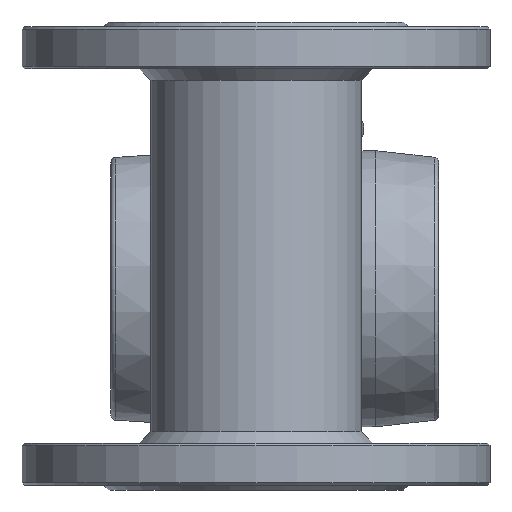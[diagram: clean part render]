
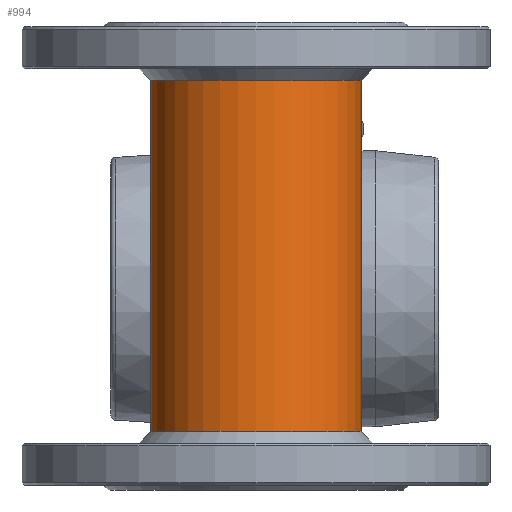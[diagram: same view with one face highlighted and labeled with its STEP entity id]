
A CAD part, front view. The second image highlights one B-rep face of the part: STEP entity #994.
In plain terms, the highlighted cylindrical face has radius 45 mm (diameter 90 mm), a full revolution.
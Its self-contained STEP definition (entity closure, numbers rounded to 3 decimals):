
#242=CYLINDRICAL_SURFACE('',#3549,45.);
#306=B_SPLINE_CURVE_WITH_KNOTS('',3,(#6154,#6155,#6156,#6157,#6158,#6159,
#6160,#6161,#6162,#6163),.UNSPECIFIED.,.F.,.F.,(4,2,2,2,4),(0.,0.25,0.5,
0.75,1.),.UNSPECIFIED.);
#307=B_SPLINE_CURVE_WITH_KNOTS('',3,(#6166,#6167,#6168,#6169,#6170,#6171,
#6172,#6173,#6174,#6175,#6176,#6177,#6178,#6179),.UNSPECIFIED.,.F.,.F.,
(4,2,2,2,2,2,4),(0.,0.25,0.375,0.5,
0.625,0.75,1.),.UNSPECIFIED.);
#490=FACE_BOUND('',#1410,.T.);
#491=FACE_BOUND('',#1411,.T.);
#492=FACE_BOUND('',#1412,.T.);
#493=FACE_BOUND('',#1413,.T.);
#756=CIRCLE('',#3545,45.);
#757=CIRCLE('',#3546,45.);
#758=CIRCLE('',#3547,45.);
#759=CIRCLE('',#3548,45.);
#994=ADVANCED_FACE('',(#490,#491,#492,#493),#242,.T.);
#1410=EDGE_LOOP('',(#1922));
#1411=EDGE_LOOP('',(#1923));
#1412=EDGE_LOOP('',(#1924,#1925));
#1413=EDGE_LOOP('',(#1926,#1927,#1928,#1929));
#1922=ORIENTED_EDGE('',*,*,#3013,.T.);
#1923=ORIENTED_EDGE('',*,*,#3014,.T.);
#1924=ORIENTED_EDGE('',*,*,#3015,.F.);
#1925=ORIENTED_EDGE('',*,*,#3016,.F.);
#1926=ORIENTED_EDGE('',*,*,#3017,.T.);
#1927=ORIENTED_EDGE('',*,*,#3018,.T.);
#1928=ORIENTED_EDGE('',*,*,#3019,.T.);
#1929=ORIENTED_EDGE('',*,*,#3020,.T.);
#2651=VERTEX_POINT('',#6151);
#2652=VERTEX_POINT('',#6153);
#2653=VERTEX_POINT('',#6164);
#2654=VERTEX_POINT('',#6165);
#2655=VERTEX_POINT('',#6181);
#2656=VERTEX_POINT('',#6182);
#2657=VERTEX_POINT('',#6184);
#2658=VERTEX_POINT('',#6186);
#3013=EDGE_CURVE('',#2651,#2651,#756,.T.);
#3014=EDGE_CURVE('',#2652,#2652,#757,.T.);
#3015=EDGE_CURVE('',#2653,#2654,#306,.T.);
#3016=EDGE_CURVE('',#2654,#2653,#307,.T.);
#3017=EDGE_CURVE('',#2655,#2656,#3376,.T.);
#3018=EDGE_CURVE('',#2656,#2657,#758,.T.);
#3019=EDGE_CURVE('',#2657,#2658,#3377,.T.);
#3020=EDGE_CURVE('',#2658,#2655,#759,.T.);
#3376=LINE('',#6180,#3429);
#3377=LINE('',#6185,#3430);
#3429=VECTOR('',#4139,1.);
#3430=VECTOR('',#4142,1.);
#3545=AXIS2_PLACEMENT_3D('',#6150,#4135,#4136);
#3546=AXIS2_PLACEMENT_3D('',#6152,#4137,#4138);
#3547=AXIS2_PLACEMENT_3D('',#6183,#4140,#4141);
#3548=AXIS2_PLACEMENT_3D('',#6187,#4143,#4144);
#3549=AXIS2_PLACEMENT_3D('',#6188,#4145,#4146);
#4135=DIRECTION('',(0.,0.,1.));
#4136=DIRECTION('',(-1.,0.,0.));
#4137=DIRECTION('',(0.,0.,-1.));
#4138=DIRECTION('',(1.,0.,0.));
#4139=DIRECTION('',(0.,0.,1.));
#4140=DIRECTION('',(0.,0.,1.));
#4141=DIRECTION('',(-1.,0.,0.));
#4142=DIRECTION('',(0.,0.,-1.));
#4143=DIRECTION('',(0.,0.,-1.));
#4144=DIRECTION('',(1.,0.,0.));
#4145=DIRECTION('',(0.,0.,-1.));
#4146=DIRECTION('',(1.,0.,0.));
#6150=CARTESIAN_POINT('',(0.,-18.,15.));
#6151=CARTESIAN_POINT('',(-45.,-18.,15.));
#6152=CARTESIAN_POINT('',(0.,-18.,165.));
#6153=CARTESIAN_POINT('',(45.,-18.,165.));
#6154=CARTESIAN_POINT('',(35.228,10.,139.944));
#6155=CARTESIAN_POINT('',(36.113,8.887,139.811));
#6156=CARTESIAN_POINT('',(36.929,7.741,139.417));
#6157=CARTESIAN_POINT('',(38.204,5.807,137.772));
#6158=CARTESIAN_POINT('',(38.643,5.06,136.437));
#6159=CARTESIAN_POINT('',(38.647,5.053,133.585));
#6160=CARTESIAN_POINT('',(38.209,5.799,132.238));
#6161=CARTESIAN_POINT('',(36.934,7.733,130.586));
#6162=CARTESIAN_POINT('',(36.115,8.884,130.189));
#6163=CARTESIAN_POINT('',(35.228,10.,130.056));
#6164=CARTESIAN_POINT('',(35.228,10.,139.944));
#6165=CARTESIAN_POINT('',(35.228,10.,130.056));
#6166=CARTESIAN_POINT('',(35.228,10.,130.056));
#6167=CARTESIAN_POINT('',(34.106,11.412,129.887));
#6168=CARTESIAN_POINT('',(32.869,12.778,130.068));
#6169=CARTESIAN_POINT('',(31.135,14.501,131.222));
#6170=CARTESIAN_POINT('',(30.583,15.015,131.764));
#6171=CARTESIAN_POINT('',(29.747,15.77,133.194));
#6172=CARTESIAN_POINT('',(29.486,15.994,134.07));
#6173=CARTESIAN_POINT('',(29.48,15.999,135.895));
#6174=CARTESIAN_POINT('',(29.737,15.779,136.781));
#6175=CARTESIAN_POINT('',(30.57,15.027,138.222));
#6176=CARTESIAN_POINT('',(31.121,14.514,138.766));
#6177=CARTESIAN_POINT('',(32.851,12.797,139.926));
#6178=CARTESIAN_POINT('',(34.103,11.415,140.114));
#6179=CARTESIAN_POINT('',(35.228,10.,139.944));
#6180=CARTESIAN_POINT('',(25.,19.417,180.));
#6181=CARTESIAN_POINT('',(25.,19.417,51.));
#6182=CARTESIAN_POINT('',(25.,19.417,101.));
#6183=CARTESIAN_POINT('',(0.,-18.,101.));
#6184=CARTESIAN_POINT('',(-25.,19.417,101.));
#6185=CARTESIAN_POINT('',(-25.,19.417,180.));
#6186=CARTESIAN_POINT('',(-25.,19.417,51.));
#6187=CARTESIAN_POINT('',(0.,-18.,51.));
#6188=CARTESIAN_POINT('',(0.,-18.,180.));
